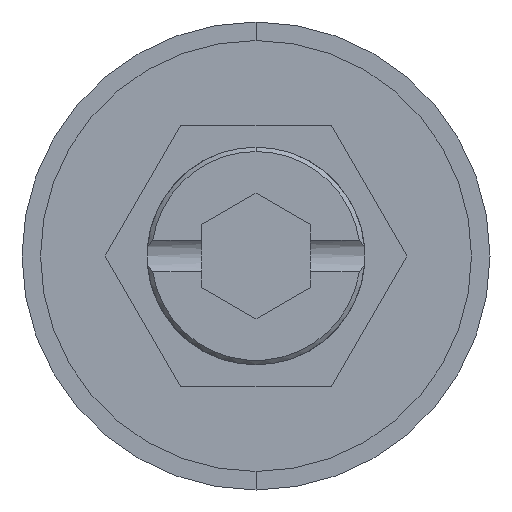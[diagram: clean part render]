
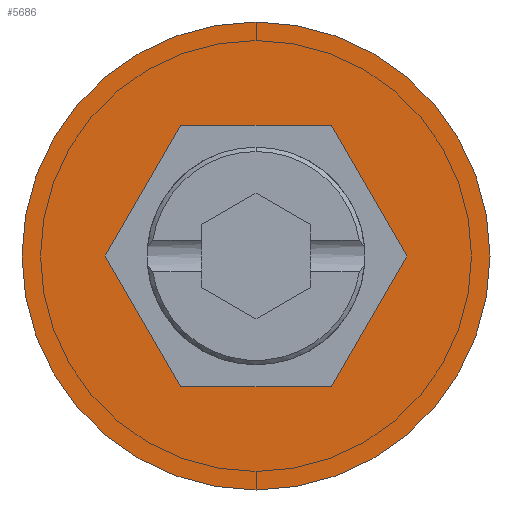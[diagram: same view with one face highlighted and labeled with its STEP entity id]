
A CAD part, front view. The second image highlights one B-rep face of the part: STEP entity #5686.
In plain terms, the highlighted planar face has unit normal (0, -1, 0).
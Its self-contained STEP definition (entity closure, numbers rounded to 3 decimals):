
#65 = AXIS2_PLACEMENT_3D ( 'NONE', #2861, #5113, #602 ) ;
#78 = EDGE_CURVE ( 'NONE', #3559, #1042, #5411, .T. ) ;
#104 = DIRECTION ( 'NONE',  ( 0., -1., 0. ) ) ;
#162 = CARTESIAN_POINT ( 'NONE',  ( 0., 0., -10.75 ) ) ;
#247 = DIRECTION ( 'NONE',  ( 0., 0., -1. ) ) ;
#268 = ORIENTED_EDGE ( 'NONE', *, *, #5521, .T. ) ;
#278 = ORIENTED_EDGE ( 'NONE', *, *, #3406, .F. ) ;
#321 = CARTESIAN_POINT ( 'NONE',  ( 3.464, 0., -6. ) ) ;
#387 = ORIENTED_EDGE ( 'NONE', *, *, #2494, .F. ) ;
#487 = DIRECTION ( 'NONE',  ( 1., 0., 0. ) ) ;
#563 = VECTOR ( 'NONE', #4709, 1000. ) ;
#602 = DIRECTION ( 'NONE',  ( 0., 0., -1. ) ) ;
#662 = VECTOR ( 'NONE', #1413, 1000. ) ;
#676 = EDGE_CURVE ( 'NONE', #5170, #2368, #999, .T. ) ;
#791 = EDGE_CURVE ( 'NONE', #1097, #1684, #1774, .T. ) ;
#905 = VECTOR ( 'NONE', #2819, 1000. ) ;
#914 = VERTEX_POINT ( 'NONE', #1824 ) ;
#958 = CARTESIAN_POINT ( 'NONE',  ( 6.928, 0., 0. ) ) ;
#999 = LINE ( 'NONE', #2199, #563 ) ;
#1030 = CARTESIAN_POINT ( 'NONE',  ( 3.464, 0., -6. ) ) ;
#1042 = VERTEX_POINT ( 'NONE', #1030 ) ;
#1085 = VECTOR ( 'NONE', #1683, 1000. ) ;
#1097 = VERTEX_POINT ( 'NONE', #162 ) ;
#1120 = EDGE_LOOP ( 'NONE', ( #5660, #268 ) ) ;
#1239 = ORIENTED_EDGE ( 'NONE', *, *, #676, .F. ) ;
#1321 = CARTESIAN_POINT ( 'NONE',  ( -3.464, 0., -6. ) ) ;
#1413 = DIRECTION ( 'NONE',  ( -0.5, 0., 0.866 ) ) ;
#1683 = DIRECTION ( 'NONE',  ( 0.5, 0., 0.866 ) ) ;
#1684 = VERTEX_POINT ( 'NONE', #3555 ) ;
#1774 = CIRCLE ( 'NONE', #2794, 10.75 ) ;
#1824 = CARTESIAN_POINT ( 'NONE',  ( 3.464, 0., 6. ) ) ;
#1933 = VECTOR ( 'NONE', #487, 1000. ) ;
#2032 = VECTOR ( 'NONE', #5514, 1000. ) ;
#2199 = CARTESIAN_POINT ( 'NONE',  ( -3.464, 0., 6. ) ) ;
#2224 = FACE_OUTER_BOUND ( 'NONE', #1120, .T. ) ;
#2368 = VERTEX_POINT ( 'NONE', #4594 ) ;
#2405 = CARTESIAN_POINT ( 'NONE',  ( -3.464, 0., -6. ) ) ;
#2494 = EDGE_CURVE ( 'NONE', #1042, #3743, #4405, .T. ) ;
#2794 = AXIS2_PLACEMENT_3D ( 'NONE', #5663, #2955, #247 ) ;
#2813 = CARTESIAN_POINT ( 'NONE',  ( 0., 0., 0. ) ) ;
#2819 = DIRECTION ( 'NONE',  ( 0.5, 0., -0.866 ) ) ;
#2861 = CARTESIAN_POINT ( 'NONE',  ( 0., 0., 0. ) ) ;
#2896 = AXIS2_PLACEMENT_3D ( 'NONE', #2813, #104, #3260 ) ;
#2955 = DIRECTION ( 'NONE',  ( 0., -1., 0. ) ) ;
#3211 = LINE ( 'NONE', #958, #662 ) ;
#3260 = DIRECTION ( 'NONE',  ( 0., 0., -1. ) ) ;
#3318 = PLANE ( 'NONE',  #65 ) ;
#3406 = EDGE_CURVE ( 'NONE', #2368, #3559, #4518, .T. ) ;
#3526 = ORIENTED_EDGE ( 'NONE', *, *, #5337, .F. ) ;
#3555 = CARTESIAN_POINT ( 'NONE',  ( 0., 0., 10.75 ) ) ;
#3559 = VERTEX_POINT ( 'NONE', #2405 ) ;
#3613 = CARTESIAN_POINT ( 'NONE',  ( -3.464, 0., 6. ) ) ;
#3719 = CARTESIAN_POINT ( 'NONE',  ( -6.928, 0., 0. ) ) ;
#3743 = VERTEX_POINT ( 'NONE', #4235 ) ;
#3861 = ORIENTED_EDGE ( 'NONE', *, *, #78, .F. ) ;
#4012 = EDGE_CURVE ( 'NONE', #914, #5170, #4718, .T. ) ;
#4235 = CARTESIAN_POINT ( 'NONE',  ( 6.928, 0., 0. ) ) ;
#4405 = LINE ( 'NONE', #321, #1085 ) ;
#4518 = LINE ( 'NONE', #3719, #905 ) ;
#4594 = CARTESIAN_POINT ( 'NONE',  ( -6.928, 0., 0. ) ) ;
#4709 = DIRECTION ( 'NONE',  ( -0.5, 0., -0.866 ) ) ;
#4718 = LINE ( 'NONE', #5064, #2032 ) ;
#5064 = CARTESIAN_POINT ( 'NONE',  ( 3.464, 0., 6. ) ) ;
#5113 = DIRECTION ( 'NONE',  ( 0., -1., 0. ) ) ;
#5170 = VERTEX_POINT ( 'NONE', #3613 ) ;
#5187 = CIRCLE ( 'NONE', #2896, 10.75 ) ;
#5337 = EDGE_CURVE ( 'NONE', #3743, #914, #3211, .T. ) ;
#5411 = LINE ( 'NONE', #1321, #1933 ) ;
#5514 = DIRECTION ( 'NONE',  ( -1., 0., 0. ) ) ;
#5521 = EDGE_CURVE ( 'NONE', #1684, #1097, #5187, .T. ) ;
#5568 = ORIENTED_EDGE ( 'NONE', *, *, #4012, .F. ) ;
#5606 = EDGE_LOOP ( 'NONE', ( #3861, #278, #1239, #5568, #3526, #387 ) ) ;
#5660 = ORIENTED_EDGE ( 'NONE', *, *, #791, .T. ) ;
#5663 = CARTESIAN_POINT ( 'NONE',  ( 0., 0., 0. ) ) ;
#5686 = ADVANCED_FACE ( 'NONE', ( #5838, #2224 ), #3318, .T. ) ;
#5838 = FACE_BOUND ( 'NONE', #5606, .T. ) ;
